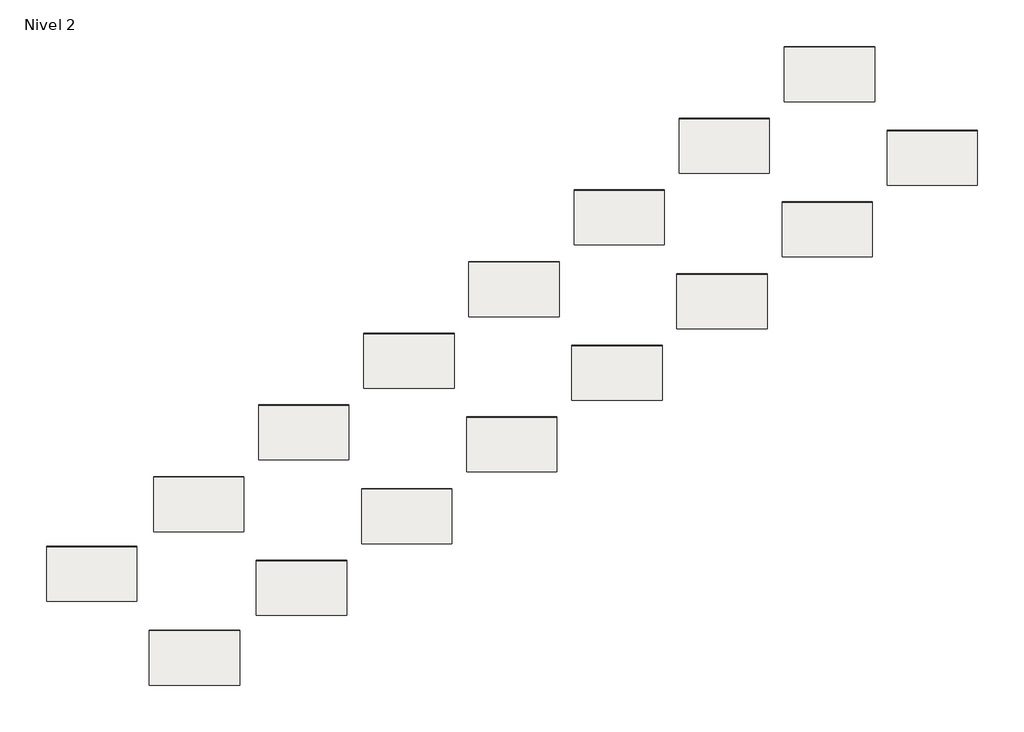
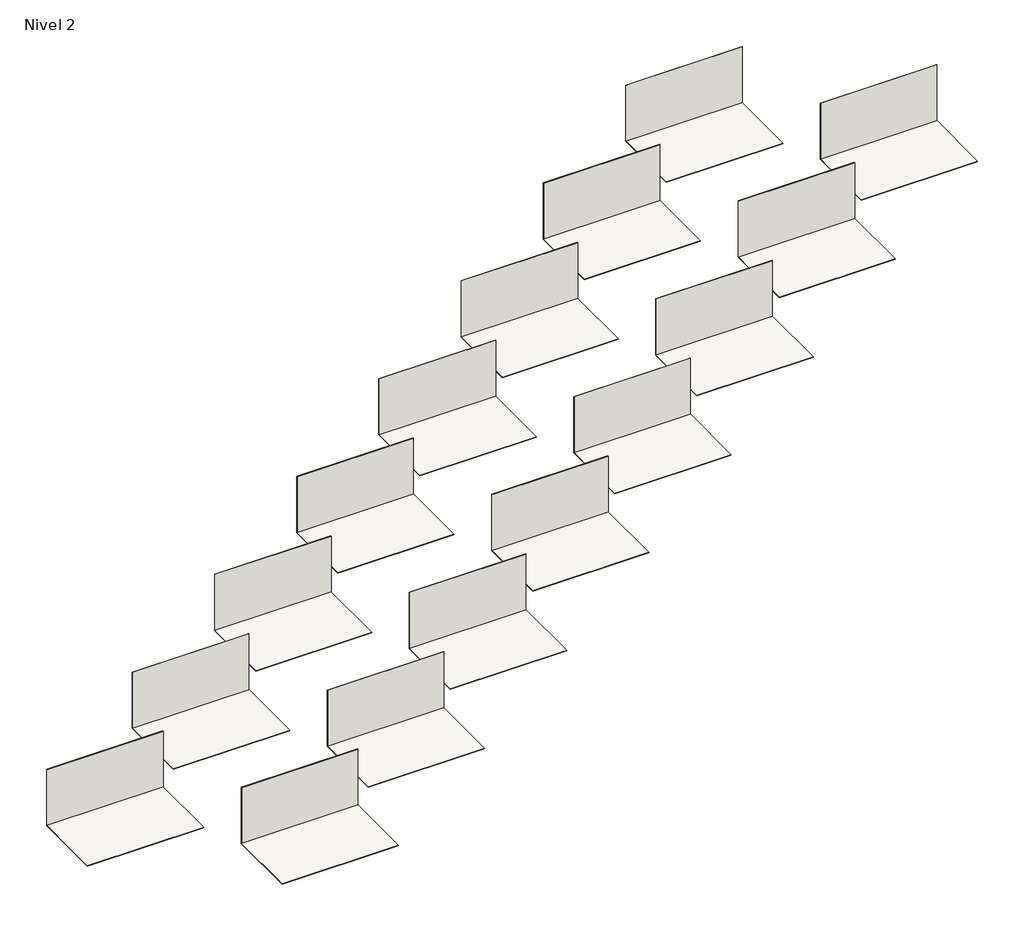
# One storey: 16 slabs, 16 walls.
"""IFC4 building model written with IfcOpenShell, lengths in millimetres."""

from ifc_helpers import new_model, si_unit, frame, origin, place, context, project, spatial, polyline, outline, extrude, element, save

model = new_model("IFC4")

# Units and contexts
model_context = context("Model", 3, world=origin())
ifc_project = project(units=[si_unit("LENGTHUNIT", "METRE", prefix="MILLI")], contexts=[model_context])

# Site, building, storey
site = spatial("IfcSite", under=ifc_project)
building = spatial("IfcBuilding", under=site)
storey = spatial("IfcBuildingStorey", under=building, Name="Nivel 2", Elevation=4000.0)

# Slabs
placement = place(None, origin())
element("IfcSlab", 1, ObjectType="Pieza 199_Patrón 1/3_Stela_Dark_Anti-Slip", at=placement, inside=storey, context=model_context, shape_type="SweptSolid", body=[
    extrude(outline(polyline([(-736.8818634, -688.8333576), (-736.8818634, -1888.8333576), (-2704.8818634, -1888.8333576), (-2704.8818634, -688.8333576), (-736.8818634, -688.8333576)])), frame((0.0, 0.0, 3991.0), z_axis=(0.0, 0.0, 1.0), x_axis=(1.0, 0.0, 0.0)), (0.0, 0.0, 1.0), 9.0),
])
element("IfcSlab", 2, ObjectType="Pieza 199_Patrón 1/3_Stela_Golden_Anti-Slip", at=placement, inside=storey, context=model_context, shape_type="SweptSolid", body=[
    extrude(outline(polyline([(1597.6528059, 834.9405823), (1597.6528059, -365.0594177), (-370.3471941, -365.0594177), (-370.3471941, 834.9405823), (1597.6528059, 834.9405823)])), frame((0.0, 0.0, 3991.0), z_axis=(0.0, 0.0, 1.0), x_axis=(1.0, 0.0, 0.0)), (0.0, 0.0, 1.0), 9.0),
])
element("IfcSlab", 3, ObjectType="Pieza 199_Patrón 1/3_Stela_Grey_Anti-Slip", at=placement, inside=storey, context=model_context, shape_type="SweptSolid", body=[
    extrude(outline(polyline([(3892.1874751, 2398.7145221), (3892.1874751, 1198.7145221), (1924.1874751, 1198.7145221), (1924.1874751, 2398.7145221), (3892.1874751, 2398.7145221)])), frame((0.0, 0.0, 3991.0), z_axis=(0.0, 0.0, 1.0), x_axis=(1.0, 0.0, 0.0)), (0.0, 0.0, 1.0), 9.0),
])
element("IfcSlab", 4, ObjectType="Pieza 199_Patrón 1/3_Stela_White_Anti-Slip", at=placement, inside=storey, context=model_context, shape_type="SweptSolid", body=[
    extrude(outline(polyline([(6186.7221443, 3962.488462), (6186.7221443, 2762.488462), (4218.7221443, 2762.488462), (4218.7221443, 3962.488462), (6186.7221443, 3962.488462)])), frame((0.0, 0.0, 3991.0), z_axis=(0.0, 0.0, 1.0), x_axis=(1.0, 0.0, 0.0)), (0.0, 0.0, 1.0), 9.0),
])
element("IfcSlab", 5, ObjectType="Pieza 199_Patrón 1/3_Stela_Dark_Liso", at=placement, inside=storey, context=model_context, shape_type="SweptSolid", body=[
    extrude(outline(polyline([(1507.4640214, -2515.8535388), (1507.4640214, -3715.8535388), (-460.5359786, -3715.8535388), (-460.5359786, -2515.8535388), (1507.4640214, -2515.8535388)])), frame((0.0, 0.0, 3991.0), z_axis=(0.0, 0.0, 1.0), x_axis=(1.0, 0.0, 0.0)), (0.0, 0.0, 1.0), 9.0),
])
element("IfcSlab", 6, ObjectType="Pieza 199_Patrón 1/3_Stela_Golden_Liso", at=placement, inside=storey, context=model_context, shape_type="SweptSolid", body=[
    extrude(outline(polyline([(3841.9986907, -992.0795989), (3841.9986907, -2192.0795989), (1873.9986907, -2192.0795989), (1873.9986907, -992.0795989), (3841.9986907, -992.0795989)])), frame((0.0, 0.0, 3991.0), z_axis=(0.0, 0.0, 1.0), x_axis=(1.0, 0.0, 0.0)), (0.0, 0.0, 1.0), 9.0),
])
element("IfcSlab", 7, ObjectType="Pieza 199_Patrón 1/3_Stela_Grey_Liso", at=placement, inside=storey, context=model_context, shape_type="SweptSolid", body=[
    extrude(outline(polyline([(6136.5333599, 571.694341), (6136.5333599, -628.305659), (4168.5333599, -628.305659), (4168.5333599, 571.694341), (6136.5333599, 571.694341)])), frame((0.0, 0.0, 3991.0), z_axis=(0.0, 0.0, 1.0), x_axis=(1.0, 0.0, 0.0)), (0.0, 0.0, 1.0), 9.0),
])
element("IfcSlab", 8, ObjectType="Pieza 199_Patrón 1/3_Stela_White_Liso", at=placement, inside=storey, context=model_context, shape_type="SweptSolid", body=[
    extrude(outline(polyline([(8431.0680292, 2135.4682808), (8431.0680292, 935.4682808), (6463.0680292, 935.4682808), (6463.0680292, 2135.4682808), (8431.0680292, 2135.4682808)])), frame((0.0, 0.0, 3991.0), z_axis=(0.0, 0.0, 1.0), x_axis=(1.0, 0.0, 0.0)), (0.0, 0.0, 1.0), 9.0),
])
element("IfcSlab", 9, ObjectType="Pieza 199_Patrón 1/3_Alma_Forest_Anti-Slip", at=placement, inside=storey, context=model_context, shape_type="SweptSolid", body=[
    extrude(outline(polyline([(8481.2568136, 5526.2624018), (8481.2568136, 4326.2624018), (6513.2568136, 4326.2624018), (6513.2568136, 5526.2624018), (8481.2568136, 5526.2624018)])), frame((0.0, 0.0, 3991.0), z_axis=(0.0, 0.0, 1.0), x_axis=(1.0, 0.0, 0.0)), (0.0, 0.0, 1.0), 9.0),
])
element("IfcSlab", 10, ObjectType="Pieza 199_Patrón 1/3_Alma_Forest_Liso", at=placement, inside=storey, context=model_context, shape_type="SweptSolid", body=[
    extrude(outline(polyline([(10725.6026984, 3699.2422207), (10725.6026984, 2499.2422207), (8757.6026984, 2499.2422207), (8757.6026984, 3699.2422207), (10725.6026984, 3699.2422207)])), frame((0.0, 0.0, 3991.0), z_axis=(0.0, 0.0, 1.0), x_axis=(1.0, 0.0, 0.0)), (0.0, 0.0, 1.0), 9.0),
])
element("IfcSlab", 11, ObjectType="Pieza 199_Patrón 1/3_Alma_Mist_Anti-Slip", at=placement, inside=storey, context=model_context, shape_type="SweptSolid", body=[
    extrude(outline(polyline([(10775.7914828, 7090.0363417), (10775.7914828, 5890.0363417), (8807.7914828, 5890.0363417), (8807.7914828, 7090.0363417), (10775.7914828, 7090.0363417)])), frame((0.0, 0.0, 3991.0), z_axis=(0.0, 0.0, 1.0), x_axis=(1.0, 0.0, 0.0)), (0.0, 0.0, 1.0), 9.0),
])
element("IfcSlab", 12, ObjectType="Pieza 199_Patrón 1/3_Alma_Mist_Liso", at=placement, inside=storey, context=model_context, shape_type="SweptSolid", body=[
    extrude(outline(polyline([(13020.1373676, 5263.0161605), (13020.1373676, 4063.0161605), (11052.1373676, 4063.0161605), (11052.1373676, 5263.0161605), (13020.1373676, 5263.0161605)])), frame((0.0, 0.0, 3991.0), z_axis=(0.0, 0.0, 1.0), x_axis=(1.0, 0.0, 0.0)), (0.0, 0.0, 1.0), 9.0),
])
element("IfcSlab", 13, ObjectType="Pieza 199_Patrón 1/3_Alma_Honey_Anti-Slip", at=placement, inside=storey, context=model_context, shape_type="SweptSolid", body=[
    extrude(outline(polyline([(13070.3261521, 8653.8102816), (13070.3261521, 7453.8102816), (11102.3261521, 7453.8102816), (11102.3261521, 8653.8102816), (13070.3261521, 8653.8102816)])), frame((0.0, 0.0, 3991.0), z_axis=(0.0, 0.0, 1.0), x_axis=(1.0, 0.0, 0.0)), (0.0, 0.0, 1.0), 9.0),
])
element("IfcSlab", 14, ObjectType="Pieza 199_Patrón 1/3_Alma_Honey_Liso", at=placement, inside=storey, context=model_context, shape_type="SweptSolid", body=[
    extrude(outline(polyline([(15314.6720369, 6826.7901004), (15314.6720369, 5626.7901004), (13346.6720369, 5626.7901004), (13346.6720369, 6826.7901004), (15314.6720369, 6826.7901004)])), frame((0.0, 0.0, 3991.0), z_axis=(0.0, 0.0, 1.0), x_axis=(1.0, 0.0, 0.0)), (0.0, 0.0, 1.0), 9.0),
])
element("IfcSlab", 15, ObjectType="Pieza 199_Patrón 1/3_Alma_Pure_Anti-Slip", at=placement, inside=storey, context=model_context, shape_type="SweptSolid", body=[
    extrude(outline(polyline([(15364.8608213, 10217.5842214), (15364.8608213, 9017.5842214), (13396.8608213, 9017.5842214), (13396.8608213, 10217.5842214), (15364.8608213, 10217.5842214)])), frame((0.0, 0.0, 3991.0), z_axis=(0.0, 0.0, 1.0), x_axis=(1.0, 0.0, 0.0)), (0.0, 0.0, 1.0), 9.0),
])
element("IfcSlab", 16, ObjectType="Pieza 199_Patrón 1/3_Alma_Pure_Liso", at=placement, inside=storey, context=model_context, shape_type="SweptSolid", body=[
    extrude(outline(polyline([(17609.2067061, 8390.5640402), (17609.2067061, 7190.5640402), (15641.2067061, 7190.5640402), (15641.2067061, 8390.5640402), (17609.2067061, 8390.5640402)])), frame((0.0, 0.0, 3991.0), z_axis=(0.0, 0.0, 1.0), x_axis=(1.0, 0.0, 0.0)), (0.0, 0.0, 1.0), 9.0),
])

# Walls
element("IfcWall", 17, ObjectType="Pieza 199_Patrón 1/3_Stela_Dark_Anti-Slip", at=placement, inside=storey, context=model_context, shape_type="SweptSolid", body=[
    extrude(outline(polyline([(-736.8818634, -697.8333576), (-2704.8818634, -697.8333576), (-2704.8818634, -688.8333576), (-736.8818634, -688.8333576), (-736.8818634, -697.8333576)])), frame((0.0, 0.0, 4000.0), z_axis=(0.0, 0.0, 1.0), x_axis=(1.0, 0.0, 0.0)), (0.0, 0.0, 1.0), 1000.0),
])
element("IfcWall", 18, ObjectType="Pieza 199_Patrón 1/3_Stela_Golden_Anti-Slip", at=placement, inside=storey, context=model_context, shape_type="SweptSolid", body=[
    extrude(outline(polyline([(1597.6528059, 825.9405823), (-370.3471941, 825.9405823), (-370.3471941, 834.9405823), (1597.6528059, 834.9405823), (1597.6528059, 825.9405823)])), frame((0.0, 0.0, 4000.0), z_axis=(0.0, 0.0, 1.0), x_axis=(1.0, 0.0, 0.0)), (0.0, 0.0, 1.0), 1000.0),
])
element("IfcWall", 19, ObjectType="Pieza 199_Patrón 1/3_Stela_Grey_Anti-Slip", at=placement, inside=storey, context=model_context, shape_type="SweptSolid", body=[
    extrude(outline(polyline([(3892.1874751, 2389.7145221), (1924.1874751, 2389.7145221), (1924.1874751, 2398.7145221), (3892.1874751, 2398.7145221), (3892.1874751, 2389.7145221)])), frame((0.0, 0.0, 4000.0), z_axis=(0.0, 0.0, 1.0), x_axis=(1.0, 0.0, 0.0)), (0.0, 0.0, 1.0), 1000.0),
])
element("IfcWall", 20, ObjectType="Pieza 199_Patrón 1/3_Stela_White_Anti-Slip", at=placement, inside=storey, context=model_context, shape_type="SweptSolid", body=[
    extrude(outline(polyline([(6186.7221443, 3953.488462), (4218.7221443, 3953.488462), (4218.7221443, 3962.488462), (6186.7221443, 3962.488462), (6186.7221443, 3953.488462)])), frame((0.0, 0.0, 4000.0), z_axis=(0.0, 0.0, 1.0), x_axis=(1.0, 0.0, 0.0)), (0.0, 0.0, 1.0), 1000.0),
])
element("IfcWall", 21, ObjectType="Pieza 199_Patrón 1/3_Stela_Dark_Liso", at=placement, inside=storey, context=model_context, shape_type="SweptSolid", body=[
    extrude(outline(polyline([(1507.4640214, -2524.8535388), (-460.5359786, -2524.8535388), (-460.5359786, -2515.8535388), (1507.4640214, -2515.8535388), (1507.4640214, -2524.8535388)])), frame((0.0, 0.0, 4000.0), z_axis=(0.0, 0.0, 1.0), x_axis=(1.0, 0.0, 0.0)), (0.0, 0.0, 1.0), 1000.0),
])
element("IfcWall", 22, ObjectType="Pieza 199_Patrón 1/3_Stela_Golden_Liso", at=placement, inside=storey, context=model_context, shape_type="SweptSolid", body=[
    extrude(outline(polyline([(3841.9986907, -1001.0795989), (1873.9986907, -1001.0795989), (1873.9986907, -992.0795989), (3841.9986907, -992.0795989), (3841.9986907, -1001.0795989)])), frame((0.0, 0.0, 4000.0), z_axis=(0.0, 0.0, 1.0), x_axis=(1.0, 0.0, 0.0)), (0.0, 0.0, 1.0), 1000.0),
])
element("IfcWall", 23, ObjectType="Pieza 199_Patrón 1/3_Stela_Grey_Liso", at=placement, inside=storey, context=model_context, shape_type="SweptSolid", body=[
    extrude(outline(polyline([(6136.5333599, 562.694341), (4168.5333599, 562.694341), (4168.5333599, 571.694341), (6136.5333599, 571.694341), (6136.5333599, 562.694341)])), frame((0.0, 0.0, 4000.0), z_axis=(0.0, 0.0, 1.0), x_axis=(1.0, 0.0, 0.0)), (0.0, 0.0, 1.0), 1000.0),
])
element("IfcWall", 24, ObjectType="Pieza 199_Patrón 1/3_Stela_White_Liso", at=placement, inside=storey, context=model_context, shape_type="SweptSolid", body=[
    extrude(outline(polyline([(8431.0680292, 2126.4682808), (6463.0680292, 2126.4682808), (6463.0680292, 2135.4682808), (8431.0680292, 2135.4682808), (8431.0680292, 2126.4682808)])), frame((0.0, 0.0, 4000.0), z_axis=(0.0, 0.0, 1.0), x_axis=(1.0, 0.0, 0.0)), (0.0, 0.0, 1.0), 1000.0),
])
element("IfcWall", 25, ObjectType="Pieza 199_Patrón 1/3_Alma_Forest_Anti-Slip", at=placement, inside=storey, context=model_context, shape_type="SweptSolid", body=[
    extrude(outline(polyline([(8481.2568136, 5517.2624018), (6513.2568136, 5517.2624018), (6513.2568136, 5526.2624018), (8481.2568136, 5526.2624018), (8481.2568136, 5517.2624018)])), frame((0.0, 0.0, 4000.0), z_axis=(0.0, 0.0, 1.0), x_axis=(1.0, 0.0, 0.0)), (0.0, 0.0, 1.0), 1000.0),
])
element("IfcWall", 26, ObjectType="Pieza 199_Patrón 1/3_Alma_Forest_Liso", at=placement, inside=storey, context=model_context, shape_type="SweptSolid", body=[
    extrude(outline(polyline([(10725.6026984, 3690.2422207), (8757.6026984, 3690.2422207), (8757.6026984, 3699.2422207), (10725.6026984, 3699.2422207), (10725.6026984, 3690.2422207)])), frame((0.0, 0.0, 4000.0), z_axis=(0.0, 0.0, 1.0), x_axis=(1.0, 0.0, 0.0)), (0.0, 0.0, 1.0), 1000.0),
])
element("IfcWall", 27, ObjectType="Pieza 199_Patrón 1/3_Alma_Mist_Anti-Slip", at=placement, inside=storey, context=model_context, shape_type="SweptSolid", body=[
    extrude(outline(polyline([(10775.7914828, 7081.0363417), (8807.7914828, 7081.0363417), (8807.7914828, 7090.0363417), (10775.7914828, 7090.0363417), (10775.7914828, 7081.0363417)])), frame((0.0, 0.0, 4000.0), z_axis=(0.0, 0.0, 1.0), x_axis=(1.0, 0.0, 0.0)), (0.0, 0.0, 1.0), 1000.0),
])
element("IfcWall", 28, ObjectType="Pieza 199_Patrón 1/3_Alma_Mist_Liso", at=placement, inside=storey, context=model_context, shape_type="SweptSolid", body=[
    extrude(outline(polyline([(13020.1373676, 5254.0161605), (11052.1373676, 5254.0161605), (11052.1373676, 5263.0161605), (13020.1373676, 5263.0161605), (13020.1373676, 5254.0161605)])), frame((0.0, 0.0, 4000.0), z_axis=(0.0, 0.0, 1.0), x_axis=(1.0, 0.0, 0.0)), (0.0, 0.0, 1.0), 1000.0),
])
element("IfcWall", 29, ObjectType="Pieza 199_Patrón 1/3_Alma_Honey_Anti-Slip", at=placement, inside=storey, context=model_context, shape_type="SweptSolid", body=[
    extrude(outline(polyline([(13070.3261521, 8644.8102816), (11102.3261521, 8644.8102816), (11102.3261521, 8653.8102816), (13070.3261521, 8653.8102816), (13070.3261521, 8644.8102816)])), frame((0.0, 0.0, 4000.0), z_axis=(0.0, 0.0, 1.0), x_axis=(1.0, 0.0, 0.0)), (0.0, 0.0, 1.0), 1000.0),
])
element("IfcWall", 30, ObjectType="Pieza 199_Patrón 1/3_Alma_Honey_Liso", at=placement, inside=storey, context=model_context, shape_type="SweptSolid", body=[
    extrude(outline(polyline([(15314.6720369, 6817.7901004), (13346.6720369, 6817.7901004), (13346.6720369, 6826.7901004), (15314.6720369, 6826.7901004), (15314.6720369, 6817.7901004)])), frame((0.0, 0.0, 4000.0), z_axis=(0.0, 0.0, 1.0), x_axis=(1.0, 0.0, 0.0)), (0.0, 0.0, 1.0), 1000.0),
])
element("IfcWall", 31, ObjectType="Pieza 199_Patrón 1/3_Alma_Pure_Anti-Slip", at=placement, inside=storey, context=model_context, shape_type="SweptSolid", body=[
    extrude(outline(polyline([(15364.8608213, 10208.5842214), (13396.8608213, 10208.5842214), (13396.8608213, 10217.5842214), (15364.8608213, 10217.5842214), (15364.8608213, 10208.5842214)])), frame((0.0, 0.0, 4000.0), z_axis=(0.0, 0.0, 1.0), x_axis=(1.0, 0.0, 0.0)), (0.0, 0.0, 1.0), 1000.0),
])
element("IfcWall", 32, ObjectType="Pieza 199_Patrón 1/3_Alma_Pure_Liso", at=placement, inside=storey, context=model_context, shape_type="SweptSolid", body=[
    extrude(outline(polyline([(17609.2067061, 8381.5640402), (15641.2067061, 8381.5640402), (15641.2067061, 8390.5640402), (17609.2067061, 8390.5640402), (17609.2067061, 8381.5640402)])), frame((0.0, 0.0, 4000.0), z_axis=(0.0, 0.0, 1.0), x_axis=(1.0, 0.0, 0.0)), (0.0, 0.0, 1.0), 1000.0),
])

save(model, "model.ifc")
